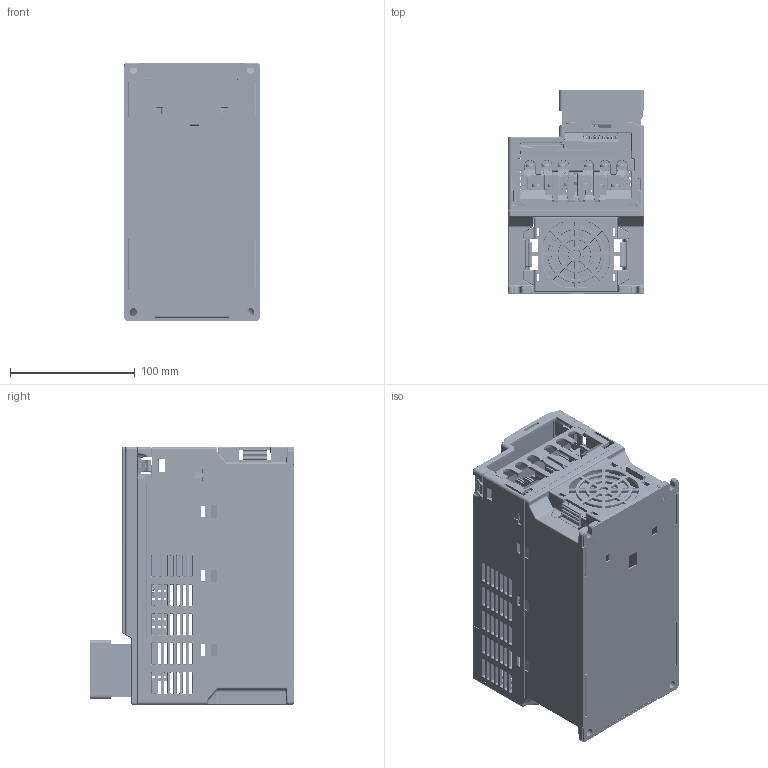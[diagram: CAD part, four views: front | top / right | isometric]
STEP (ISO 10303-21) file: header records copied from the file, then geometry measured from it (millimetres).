
FILE_DESCRIPTION((''),'2;1');
FILE_NAME('DELTA_IA_MDS_VFD-ME300-D1-3D_ASM','2023-12-28T19:09:20',('EDWARD.LIAO'),(''),'CREO PARAMETRIC BY PTC INC, 2022162','CREO PARAMETRIC BY PTC INC, 2022162','');
FILE_SCHEMA(('AUTOMOTIVE_DESIGN { 1 0 10303 214 1 1 1 1 }'));
Products named in the file (86): DELTA_IA_MDS_VFD-ME300-D1-3D-_2; DELTA_IA_MDS_VFD-ME300-D1-3D-_3; DELTA_IA_MDS_VFD-ME300-D1-3D-_4; DELTA_IA_MDS_VFD-ME300-D1-3D-_5; DELTA_IA_MDS_VFD-ME300-D1-3D-_6; DELTA_IA_MDS_VFD-ME300-D1-3D-_7; DELTA_IA_MDS_VFD-ME300-D1-3D-_8; DELTA_IA_MDS_VFD-ME300-D1-3D-_9; DELTA_IA_MDS_VFD-ME300-D1-3D_10; DELTA_IA_MDS_VFD-ME300-D1-3D_11; DELTA_IA_MDS_VFD-ME300-D1-3D_13; DELTA_IA_MDS_VFD-ME300-D1-3D_14; DELTA_IA_MDS_VFD-ME300-D1-3D_16; DELTA_IA_MDS_VFD-ME300-D1-3D_17; DELTA_IA_MDS_VFD-ME300-D1-3D_19; DELTA_IA_MDS_VFD-ME300-D1-3D_20; DELTA_IA_MDS_VFD-ME300-D1-3D_22; DELTA_IA_MDS_VFD-ME300-D1-3D_23; DELTA_IA_MDS_VFD-ME300-D1-3D_25; DELTA_IA_MDS_VFD-ME300-D1-3D_26; DELTA_IA_MDS_VFD-ME300-D1-3D_28; DELTA_IA_MDS_VFD-ME300-D1-3D_29; DELTA_IA_MDS_VFD-ME300-D1-3D_31; DELTA_IA_MDS_VFD-ME300-D1-3D_32; DELTA_IA_MDS_VFD-ME300-D1-3D_33; DELTA_IA_MDS_VFD-ME300-D1-3D_35; DELTA_IA_MDS_VFD-ME300-D1-3D_36; DELTA_IA_MDS_VFD-ME300-D1-3D_37; DELTA_IA_MDS_VFD-ME300-D1-3D_39; DELTA_IA_MDS_VFD-ME300-D1-3D_40; DELTA_IA_MDS_VFD-ME300-D1-3D_41; DELTA_IA_MDS_VFD-ME300-D1-3D_43; DELTA_IA_MDS_VFD-ME300-D1-3D_44; DELTA_IA_MDS_VFD-ME300-D1-3D_45; DELTA_IA_MDS_VFD-ME300-D1-3D_47; DELTA_IA_MDS_VFD-ME300-D1-3D_48; DELTA_IA_MDS_VFD-ME300-D1-3D_49; DELTA_IA_MDS_VFD-ME300-D1-3D_51; DELTA_IA_MDS_VFD-ME300-D1-3D_53; DELTA_IA_MDS_VFD-ME300-D1-3D_79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
Assembly tree (85 placements, depth 6):
  DELTA_IA_MDS_VFD-ME300-D1-3D_ASM
    ASM0003_ASM_1_ASM_1_ASM
      DELTA_IA_MDS_VFD-ME300-D1-3D-_2
      DELTA_IA_MDS_VFD-ME300-D1-3D-_3
      DELTA_IA_MDS_VFD-ME300-D1-3D-_4
      DELTA_IA_MDS_VFD-ME300-D1-3D-_5
      DELTA_IA_MDS_VFD-ME300-D1-3D-_6
      DELTA_IA_MDS_VFD-ME300-D1-3D-_7
      DELTA_IA_MDS_VFD-ME300-D1-3D-_8
      DELTA_IA_MDS_VFD-ME300-D1-3D-_9
      DELTA_IA_MDS_VFD-ME300-D1-3D_10
      DELTA_IA_MDS_VFD-ME300-D1-3D_11
      DELTA_IA_MDS_VFD-ME300-D1-3D_13
      DELTA_IA_MDS_VFD-ME300-D1-3D_14
      DELTA_IA_MDS_VFD-ME300-D1-3D_16
      DELTA_IA_MDS_VFD-ME300-D1-3D_17
      DELTA_IA_MDS_VFD-ME300-D1-3D_19
      DELTA_IA_MDS_VFD-ME300-D1-3D_20
      DELTA_IA_MDS_VFD-ME300-D1-3D_22
      DELTA_IA_MDS_VFD-ME300-D1-3D_23
      DELTA_IA_MDS_VFD-ME300-D1-3D_25
      DELTA_IA_MDS_VFD-ME300-D1-3D_26
      DELTA_IA_MDS_VFD-ME300-D1-3D_28
      DELTA_IA_MDS_VFD-ME300-D1-3D_29
      DELTA_IA_MDS_VFD-ME300-D1-3D_31
      DELTA_IA_MDS_VFD-ME300-D1-3D_32
      DELTA_IA_MDS_VFD-ME300-D1-3D_33
      DELTA_IA_MDS_VFD-ME300-D1-3D_35
      DELTA_IA_MDS_VFD-ME300-D1-3D_36
      DELTA_IA_MDS_VFD-ME300-D1-3D_37
      DELTA_IA_MDS_VFD-ME300-D1-3D_39
      DELTA_IA_MDS_VFD-ME300-D1-3D_40
      DELTA_IA_MDS_VFD-ME300-D1-3D_41
      DELTA_IA_MDS_VFD-ME300-D1-3D_43
      DELTA_IA_MDS_VFD-ME300-D1-3D_44
      DELTA_IA_MDS_VFD-ME300-D1-3D_45
      DELTA_IA_MDS_VFD-ME300-D1-3D_47
      DELTA_IA_MDS_VFD-ME300-D1-3D_48
      DELTA_IA_MDS_VFD-ME300-D1-3D_49
      DELTA_IA_MDS_VFD-ME300-D1-3D_51
      DELTA_IA_MDS_VFD-ME300-D1-3D_53
      DELTA_IA_MDS_VFD-ME300-D1-3D_79
      DELTA_IA_MDS_VFD-ME300-D1-3D_82
      DELTA_IA_MDS_VFD-ME300-D1-3D_87
      DELTA_IA_MDS_VFD-ME300-D1-3D_89
      DELTA_IA_MDS_VFD-ME300-D1-3D_90
      DELTA_IA_MDS_VFD-ME300-D1-3D_91
      DELTA_IA_MDS_VFD-ME300-D1-3D_92
      DELTA_IA_MDS_VFD-ME300-D1-3_103
      ASM0003_ASM_1_ASM
        ASM0001_ASM_1_1_ASM_1_1_2_3_4_ASM
          ME-CTR_22_1_1_1_1
          ME-CTR_23_1_1_1_1
          ME-CTR_24_1_1_1_1
          ME-CTR_25_1_1_1_1
          ME-CTR_26_1_1_1_1
          ME-CTR_27_1_1_1_1
          ME-CTR_28_1_1_1_1
          ME-CTR_29_1_1_1_1
          ME-CTR_30_1_1_1_1
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Bounding box: 109.6 x 163.3 x 207.3 mm (x, y, z)
Volume: 348324.8 mm3; surface area: 394294.3 mm2
Topology: 80 solids, 159 shells, 14094 faces, 37573 edges, 23831 vertices
Faces by surface type: plane 7840, cylinder 3061, cone 1498, torus 675, extrusion 568, bspline 370, sphere 70, revolution 12
Entity records: 571844 total; most frequent: CARTESIAN_POINT 119494, ORIENTED_EDGE 74838, DIRECTION 70435, EDGE_CURVE 37435, VECTOR 25741, LINE 25173, VERTEX_POINT 23771, PRESENTATION_STYLE_ASSIGNMENT 23612
